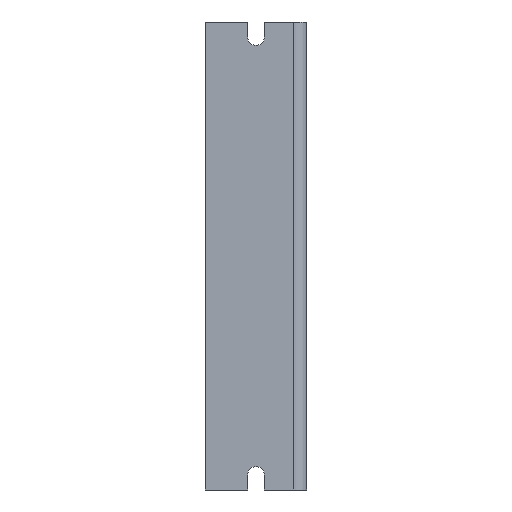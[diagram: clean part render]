
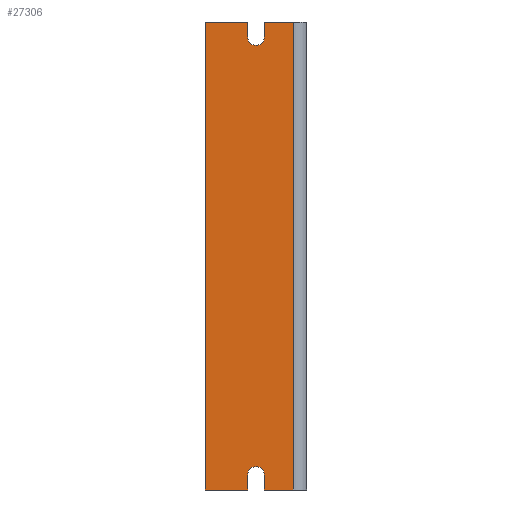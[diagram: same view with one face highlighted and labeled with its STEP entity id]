
A CAD part, left-side view. The second image highlights one B-rep face of the part: STEP entity #27306.
In plain terms, the highlighted planar face has unit normal (-1, 0, 0) as drawn and (0, 0, -1) by its records, which use the part's own axes.
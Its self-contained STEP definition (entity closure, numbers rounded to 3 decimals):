
#26406=DIRECTION('',(-1.,0.,0.));
#26407=VECTOR('',#26406,125.);
#26408=CARTESIAN_POINT('',(62.5,3.5,-78.5));
#26409=LINE('',#26408,#26407);
#26424=DIRECTION('',(-1.,0.,0.));
#26425=VECTOR('',#26424,4.);
#26426=CARTESIAN_POINT('',(62.5,11.25,-78.5));
#26427=LINE('',#26426,#26425);
#26428=CARTESIAN_POINT('',(58.5,13.5,-78.5));
#26429=DIRECTION('',(0.,0.,1.));
#26430=DIRECTION('',(0.,1.,0.));
#26431=AXIS2_PLACEMENT_3D('',#26428,#26429,#26430);
#26433=DIRECTION('',(-1.,0.,0.));
#26434=VECTOR('',#26433,4.);
#26435=CARTESIAN_POINT('',(62.5,15.75,-78.5));
#26436=LINE('',#26435,#26434);
#26437=DIRECTION('',(0.,-1.,0.));
#26438=VECTOR('',#26437,11.25);
#26439=CARTESIAN_POINT('',(62.5,27.,-78.5));
#26440=LINE('',#26439,#26438);
#26441=DIRECTION('',(1.,0.,0.));
#26442=VECTOR('',#26441,125.);
#26443=CARTESIAN_POINT('',(-62.5,27.,-78.5));
#26444=LINE('',#26443,#26442);
#26445=DIRECTION('',(0.,1.,0.));
#26446=VECTOR('',#26445,11.25);
#26447=CARTESIAN_POINT('',(-62.5,15.75,-78.5));
#26448=LINE('',#26447,#26446);
#26449=DIRECTION('',(1.,0.,0.));
#26450=VECTOR('',#26449,4.);
#26451=CARTESIAN_POINT('',(-62.5,15.75,-78.5));
#26452=LINE('',#26451,#26450);
#26453=CARTESIAN_POINT('',(-58.5,13.5,-78.5));
#26454=DIRECTION('',(0.,0.,1.));
#26455=DIRECTION('',(0.,-1.,0.));
#26456=AXIS2_PLACEMENT_3D('',#26453,#26454,#26455);
#26458=DIRECTION('',(1.,0.,0.));
#26459=VECTOR('',#26458,4.);
#26460=CARTESIAN_POINT('',(-62.5,11.25,-78.5));
#26461=LINE('',#26460,#26459);
#26462=DIRECTION('',(0.,1.,0.));
#26463=VECTOR('',#26462,7.75);
#26464=CARTESIAN_POINT('',(-62.5,3.5,-78.5));
#26465=LINE('',#26464,#26463);
#26466=DIRECTION('',(0.,-1.,0.));
#26467=VECTOR('',#26466,7.75);
#26468=CARTESIAN_POINT('',(62.5,11.25,-78.5));
#26469=LINE('',#26468,#26467);
#26798=CARTESIAN_POINT('',(-62.5,27.,-78.5));
#26799=CARTESIAN_POINT('',(62.5,27.,-78.5));
#26800=VERTEX_POINT('',#26798);
#26801=VERTEX_POINT('',#26799);
#26802=CARTESIAN_POINT('',(62.5,3.5,-78.5));
#26803=CARTESIAN_POINT('',(-62.5,3.5,-78.5));
#26804=VERTEX_POINT('',#26802);
#26805=VERTEX_POINT('',#26803);
#26886=CARTESIAN_POINT('',(62.5,11.25,-78.5));
#26887=CARTESIAN_POINT('',(58.5,11.25,-78.5));
#26888=VERTEX_POINT('',#26886);
#26889=VERTEX_POINT('',#26887);
#26890=CARTESIAN_POINT('',(58.5,15.75,-78.5));
#26891=VERTEX_POINT('',#26890);
#26892=CARTESIAN_POINT('',(62.5,15.75,-78.5));
#26893=VERTEX_POINT('',#26892);
#26894=CARTESIAN_POINT('',(-62.5,15.75,-78.5));
#26895=CARTESIAN_POINT('',(-58.5,15.75,-78.5));
#26896=VERTEX_POINT('',#26894);
#26897=VERTEX_POINT('',#26895);
#26898=CARTESIAN_POINT('',(-58.5,11.25,-78.5));
#26899=VERTEX_POINT('',#26898);
#26900=CARTESIAN_POINT('',(-62.5,11.25,-78.5));
#26901=VERTEX_POINT('',#26900);
#27276=CARTESIAN_POINT('',(-62.5,0.,-78.5));
#27277=DIRECTION('',(0.,0.,-1.));
#27278=DIRECTION('',(-1.,0.,0.));
#27279=AXIS2_PLACEMENT_3D('',#27276,#27277,#27278);
#27280=PLANE('',#27279);
#27282=ORIENTED_EDGE('',*,*,#27281,.T.);
#27284=ORIENTED_EDGE('',*,*,#27283,.F.);
#27286=ORIENTED_EDGE('',*,*,#27285,.F.);
#27288=ORIENTED_EDGE('',*,*,#27287,.F.);
#27290=ORIENTED_EDGE('',*,*,#27289,.F.);
#27292=ORIENTED_EDGE('',*,*,#27291,.F.);
#27294=ORIENTED_EDGE('',*,*,#27293,.T.);
#27296=ORIENTED_EDGE('',*,*,#27295,.F.);
#27298=ORIENTED_EDGE('',*,*,#27297,.F.);
#27300=ORIENTED_EDGE('',*,*,#27299,.F.);
#27301=ORIENTED_EDGE('',*,*,#27267,.F.);
#27303=ORIENTED_EDGE('',*,*,#27302,.F.);
#27304=EDGE_LOOP('',(#27282,#27284,#27286,#27288,#27290,#27292,#27294,#27296,
#27298,#27300,#27301,#27303));
#27305=FACE_OUTER_BOUND('',#27304,.F.);
#27306=ADVANCED_FACE('',(#27305),#27280,.T.);
#26432=CIRCLE('',#26431,2.25);
#26457=CIRCLE('',#26456,2.25);
#27267=EDGE_CURVE('',#26804,#26805,#26409,.T.);
#27281=EDGE_CURVE('',#26888,#26889,#26427,.T.);
#27283=EDGE_CURVE('',#26891,#26889,#26432,.T.);
#27285=EDGE_CURVE('',#26893,#26891,#26436,.T.);
#27287=EDGE_CURVE('',#26801,#26893,#26440,.T.);
#27289=EDGE_CURVE('',#26800,#26801,#26444,.T.);
#27291=EDGE_CURVE('',#26896,#26800,#26448,.T.);
#27293=EDGE_CURVE('',#26896,#26897,#26452,.T.);
#27295=EDGE_CURVE('',#26899,#26897,#26457,.T.);
#27297=EDGE_CURVE('',#26901,#26899,#26461,.T.);
#27299=EDGE_CURVE('',#26805,#26901,#26465,.T.);
#27302=EDGE_CURVE('',#26888,#26804,#26469,.T.);
